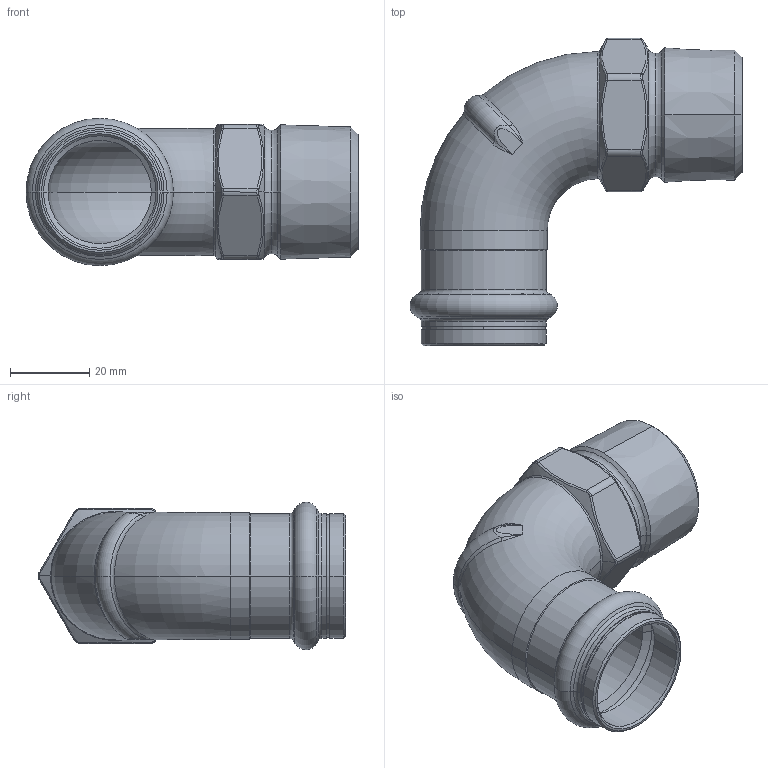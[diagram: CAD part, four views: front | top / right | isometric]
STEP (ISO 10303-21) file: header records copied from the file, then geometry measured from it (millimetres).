
FILE_DESCRIPTION (( 'STEP AP203' ), '1' );
FILE_NAME ('SP4001G Ø28 1.STEP', '2017-04-28T08:41:18', ( '' ), ( '' ), 'SwSTEP 2.0', 'SolidWorks 2016', '' );
FILE_SCHEMA (( 'CONFIG_CONTROL_DESIGN' ));
Length unit declared in the file: millimetre
Products named in the file (1): SP4001G ﾘ28 1
Bounding box: 83.55 x 77.32 x 37.1 mm (x, y, z)
Volume: 31804.2 mm3; surface area: 21996.2 mm2
Topology: 1 solids, 1 shells, 132 faces, 298 edges, 171 vertices
Faces by surface type: bspline 34, cone 30, cylinder 29, torus 22, plane 17
Entity records: 6164 total; most frequent: CARTESIAN_POINT 3367, ORIENTED_EDGE 596, DIRECTION 543, EDGE_CURVE 298, AXIS2_PLACEMENT_3D 237, VERTEX_POINT 171, CIRCLE 138, EDGE_LOOP 137
